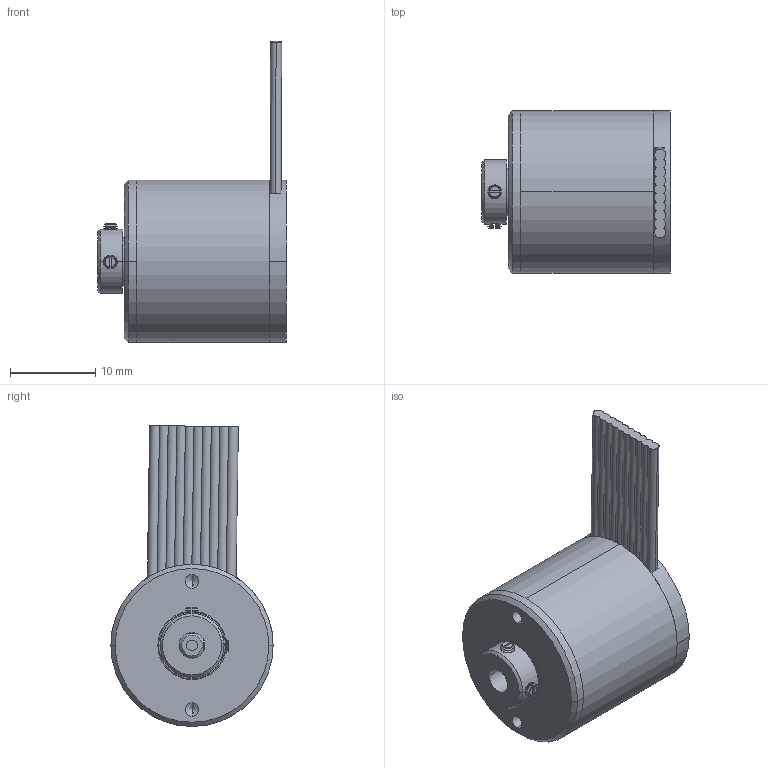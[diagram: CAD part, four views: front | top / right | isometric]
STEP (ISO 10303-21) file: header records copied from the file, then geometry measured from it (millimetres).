
FILE_DESCRIPTION (( 'STEP AP214' ), '1' );
FILE_NAME ('ﾋﾈﾐ-ﾄﾀ219ﾀ.STEP', '2017-05-23T08:58:47', ( '' ), ( '' ), 'SwSTEP 2.0', 'SolidWorks 2013', '' );
FILE_SCHEMA (( 'AUTOMOTIVE_DESIGN' ));
Length unit declared in the file: millimetre
Products named in the file (1): ﾋﾈﾐ-ﾄﾀ219ﾀ
Bounding box: 22.1 x 19 x 35.24 mm (x, y, z)
Volume: 2773.8 mm3; surface area: 6659.3 mm2
Topology: 41 solids, 41 shells, 521 faces, 1354 edges, 875 vertices
Faces by surface type: cylinder 201, cone 114, plane 110, torus 48, sphere 48
Entity records: 21780 total; most frequent: CARTESIAN_POINT 3075, DIRECTION 2861, ORIENTED_EDGE 2460, EDGE_CURVE 1230, AXIS2_PLACEMENT_3D 1221, VERTEX_POINT 803, CIRCLE 699, EDGE_LOOP 575
